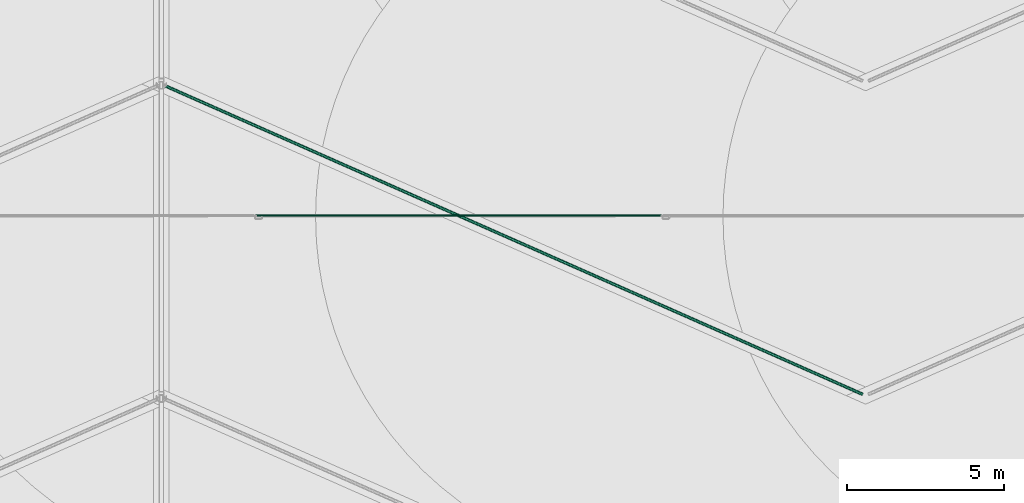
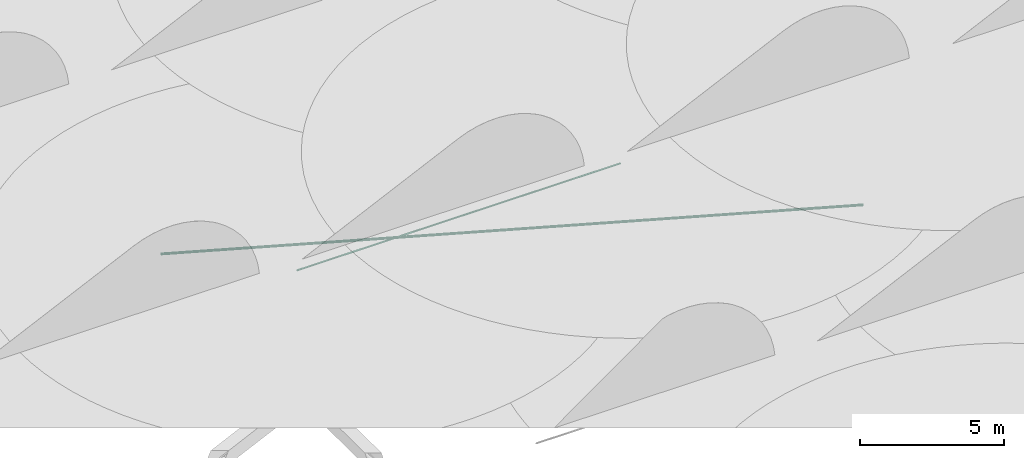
# One storey, part 14 of 166: 2 flow segments.
"""IFC2X3 building model written with IfcOpenShell, lengths in metres."""

from ifc_helpers import new_model, entity, si_unit, converted_unit, direction, frame, frame_2d, origin, place, context, subcontext, project, spatial, circle, extrude, type_object, element, save


model = new_model("IFC2X3")

# Units and contexts
model_context = context("Model", 3, precision=1e-05, world=origin(), true_north=direction((6.123233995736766e-17, 1.0)))
body_context = subcontext(model_context, "Body", "Model", "MODEL_VIEW")
ifc_project = project(units=[si_unit("LENGTHUNIT", "METRE"), converted_unit("PLANEANGLEUNIT", "DEGREE", entity("IfcPlaneAngleMeasure", 0.017453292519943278), si_unit("PLANEANGLEUNIT", "RADIAN"), dimensions=[0, 0, 0, 0, 0, 0, 0]), si_unit("AREAUNIT", "SQUARE_METRE")], contexts=[model_context])

# Site, building, storey
site_placement = place(None, origin())
site = spatial("IfcSite", under=ifc_project, at=site_placement, Name="Default", CompositionType="ELEMENT")
building_placement = place(site_placement, origin())
building = spatial("IfcBuilding", under=site, at=building_placement, Name="CASA DE ACOLHIDA PARA IDOSOS", CompositionType="ELEMENT")
storey_placement = place(building_placement, frame((0.0, 0.0, -1.7499999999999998)))
storey = spatial("IfcBuildingStorey", under=building, at=storey_placement, Name="IMPLANTAÇÃO DRENAGEM", CompositionType="ELEMENT", Elevation=-1.7499999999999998)

# Flow segments
pipe_segment_type_1 = type_object("IfcPipeSegmentType", Name="Tipos de tubos:PLUV_Tubo PEAD Corrugado", PredefinedType="NOTDEFINED")
flow_segment_1_placement = place(storey_placement, origin())
element("IfcFlowSegment", 1, at=flow_segment_1_placement, inside=storey, type_object=pipe_segment_type_1, Name="Tipos de tubos:PLUV_Tubo PEAD Corrugado", ObjectType="Tipos de tubos:PLUV_Tubo PEAD Corrugado", context=body_context, shape_type="SweptSolid", body=[
    extrude(circle(Radius=0.05, at=frame_2d((1.9806413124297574e-15, 8.760069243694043e-18), x_axis=(1.0, 0.0))), frame((-21.981366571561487, 13.854942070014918, -0.9947999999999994), z_axis=(0.9144899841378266, -0.4044849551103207, 0.009999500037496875), x_axis=(0.40450517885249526, 0.9145357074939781, 0.0)), (0.0, 0.0, 1.0), 24.480228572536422),
])
pipe_segment_type_2 = type_object("IfcPipeSegmentType", Name="Tipos de tubos:AF_Tubo Marrom Soldável", PredefinedType="NOTDEFINED")
flow_segment_2_placement = place(storey_placement, origin())
element("IfcFlowSegment", 2, at=flow_segment_2_placement, inside=storey, type_object=pipe_segment_type_2, Name="Tipos de tubos:AF_Tubo Marrom Soldável", ObjectType="Tipos de tubos:AF_Tubo Marrom Soldável", context=body_context, shape_type="SweptSolid", body=[
    extrude(circle(Radius=0.025, at=frame_2d((0.0, -2.707167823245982e-16), x_axis=(1.0, 0.0))), frame((-18.958348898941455, 9.654942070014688, -0.19999999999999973), z_axis=(1.0, 0.0, 0.0), x_axis=(0.0, -1.0, 0.0)), (0.0, 0.0, 1.0), 12.9348),
])

save(model, "model.ifc")
